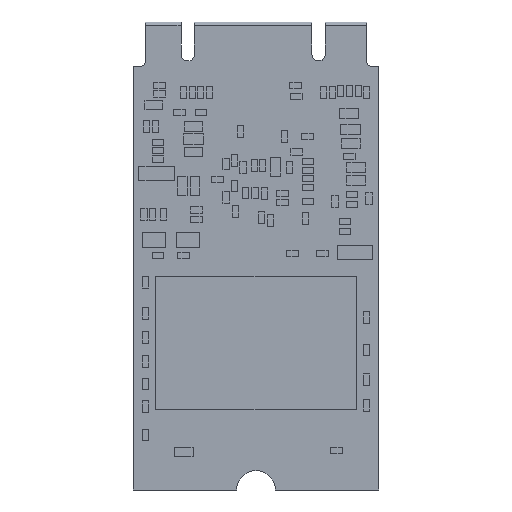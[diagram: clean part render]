
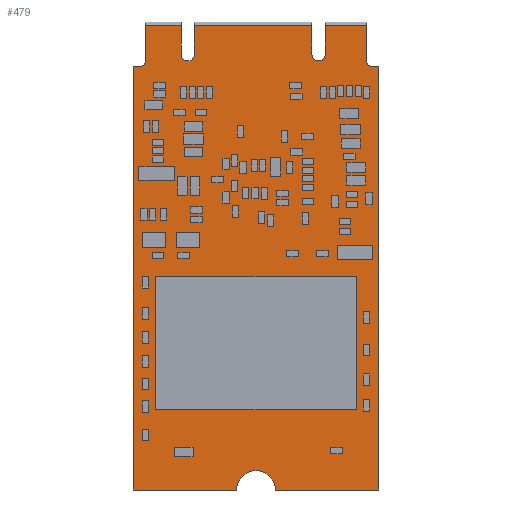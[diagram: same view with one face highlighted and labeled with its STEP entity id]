
A CAD part, front view. The second image highlights one B-rep face of the part: STEP entity #479.
In plain terms, the highlighted planar face has unit normal (0, -1, 0).
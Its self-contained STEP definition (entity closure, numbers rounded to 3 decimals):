
#6=DIRECTION('',(1.,0.,0.));
#7=VECTOR('',#6,3.2);
#8=CARTESIAN_POINT('',(-9.925,0.,-0.3));
#9=LINE('',#8,#7);
#10=DIRECTION('',(0.,0.,-1.));
#11=VECTOR('',#10,2.6);
#12=CARTESIAN_POINT('',(-6.725,0.,-0.3));
#13=LINE('',#12,#11);
#14=CARTESIAN_POINT('',(-6.125,0.,-2.9));
#15=DIRECTION('',(0.,1.,0.));
#16=DIRECTION('',(1.,0.,0.));
#17=AXIS2_PLACEMENT_3D('',#14,#15,#16);
#19=DIRECTION('',(0.,0.,-1.));
#20=VECTOR('',#19,2.6);
#21=CARTESIAN_POINT('',(-5.525,0.,-0.3));
#22=LINE('',#21,#20);
#23=DIRECTION('',(1.,0.,0.));
#24=VECTOR('',#23,10.55);
#25=CARTESIAN_POINT('',(-5.525,0.,-0.3));
#26=LINE('',#25,#24);
#27=DIRECTION('',(0.,0.,-1.));
#28=VECTOR('',#27,2.6);
#29=CARTESIAN_POINT('',(5.025,0.,-0.3));
#30=LINE('',#29,#28);
#31=CARTESIAN_POINT('',(5.625,0.,-2.9));
#32=DIRECTION('',(0.,1.,0.));
#33=DIRECTION('',(1.,0.,0.));
#34=AXIS2_PLACEMENT_3D('',#31,#32,#33);
#36=DIRECTION('',(0.,0.,-1.));
#37=VECTOR('',#36,2.6);
#38=CARTESIAN_POINT('',(6.225,0.,-0.3));
#39=LINE('',#38,#37);
#40=DIRECTION('',(1.,0.,0.));
#41=VECTOR('',#40,3.7);
#42=CARTESIAN_POINT('',(6.225,0.,-0.3));
#43=LINE('',#42,#41);
#44=DIRECTION('',(0.,0.,-1.));
#45=VECTOR('',#44,3.2);
#46=CARTESIAN_POINT('',(9.925,0.,-0.3));
#47=LINE('',#46,#45);
#48=DIRECTION('',(-1.,0.,0.));
#49=VECTOR('',#48,0.575);
#50=CARTESIAN_POINT('',(11.,0.,-4.));
#51=LINE('',#50,#49);
#52=DIRECTION('',(0.,0.,-1.));
#53=VECTOR('',#52,38.);
#54=CARTESIAN_POINT('',(11.,0.,-4.));
#55=LINE('',#54,#53);
#56=DIRECTION('',(-1.,0.,0.));
#57=VECTOR('',#56,9.25);
#58=CARTESIAN_POINT('',(11.,0.,-42.));
#59=LINE('',#58,#57);
#60=CARTESIAN_POINT('',(0.,0.,-42.));
#61=DIRECTION('',(0.,1.,0.));
#62=DIRECTION('',(-1.,0.,0.));
#63=AXIS2_PLACEMENT_3D('',#60,#61,#62);
#65=DIRECTION('',(-1.,0.,0.));
#66=VECTOR('',#65,9.25);
#67=CARTESIAN_POINT('',(-1.75,0.,-42.));
#68=LINE('',#67,#66);
#69=DIRECTION('',(0.,0.,1.));
#70=VECTOR('',#69,38.);
#71=CARTESIAN_POINT('',(-11.,0.,-42.));
#72=LINE('',#71,#70);
#73=DIRECTION('',(1.,0.,0.));
#74=VECTOR('',#73,0.575);
#75=CARTESIAN_POINT('',(-11.,0.,-4.));
#76=LINE('',#75,#74);
#77=DIRECTION('',(0.,0.,-1.));
#78=VECTOR('',#77,3.2);
#79=CARTESIAN_POINT('',(-9.925,0.,-0.3));
#80=LINE('',#79,#78);
#102=CARTESIAN_POINT('',(-10.425,0.,-3.5));
#103=DIRECTION('',(0.,1.,0.));
#104=DIRECTION('',(1.,0.,0.));
#105=AXIS2_PLACEMENT_3D('',#102,#103,#104);
#319=CARTESIAN_POINT('',(10.425,0.,-3.5));
#320=DIRECTION('',(0.,1.,0.));
#321=DIRECTION('',(0.,0.,-1.));
#322=AXIS2_PLACEMENT_3D('',#319,#320,#321);
#328=CARTESIAN_POINT('',(11.,0.,-42.));
#330=VERTEX_POINT('',#328);
#332=CARTESIAN_POINT('',(-11.,0.,-42.));
#334=VERTEX_POINT('',#332);
#336=CARTESIAN_POINT('',(11.,0.,-4.));
#338=VERTEX_POINT('',#336);
#340=CARTESIAN_POINT('',(-11.,0.,-4.));
#342=VERTEX_POINT('',#340);
#344=CARTESIAN_POINT('',(6.225,0.,-2.9));
#345=CARTESIAN_POINT('',(5.025,0.,-2.9));
#346=VERTEX_POINT('',#344);
#347=VERTEX_POINT('',#345);
#353=CARTESIAN_POINT('',(9.925,0.,-3.5));
#355=VERTEX_POINT('',#353);
#357=CARTESIAN_POINT('',(10.425,0.,-4.));
#359=VERTEX_POINT('',#357);
#361=CARTESIAN_POINT('',(-10.425,0.,-4.));
#363=VERTEX_POINT('',#361);
#365=CARTESIAN_POINT('',(-9.925,0.,-3.5));
#367=VERTEX_POINT('',#365);
#368=CARTESIAN_POINT('',(-9.925,0.,-0.3));
#369=CARTESIAN_POINT('',(-6.725,0.,-0.3));
#370=VERTEX_POINT('',#368);
#371=VERTEX_POINT('',#369);
#372=CARTESIAN_POINT('',(-5.525,0.,-0.3));
#373=CARTESIAN_POINT('',(5.025,0.,-0.3));
#374=VERTEX_POINT('',#372);
#375=VERTEX_POINT('',#373);
#400=CARTESIAN_POINT('',(9.925,0.,-0.3));
#402=VERTEX_POINT('',#400);
#408=CARTESIAN_POINT('',(6.225,0.,-0.3));
#410=VERTEX_POINT('',#408);
#416=CARTESIAN_POINT('',(-1.75,0.,-42.));
#417=CARTESIAN_POINT('',(1.75,0.,-42.));
#418=VERTEX_POINT('',#416);
#419=VERTEX_POINT('',#417);
#424=CARTESIAN_POINT('',(-5.525,0.,-2.9));
#425=CARTESIAN_POINT('',(-6.725,0.,-2.9));
#426=VERTEX_POINT('',#424);
#427=VERTEX_POINT('',#425);
#432=CARTESIAN_POINT('',(0.,0.,0.));
#433=DIRECTION('',(0.,1.,0.));
#434=DIRECTION('',(1.,0.,0.));
#435=AXIS2_PLACEMENT_3D('',#432,#433,#434);
#436=PLANE('',#435);
#438=ORIENTED_EDGE('',*,*,#437,.T.);
#440=ORIENTED_EDGE('',*,*,#439,.T.);
#442=ORIENTED_EDGE('',*,*,#441,.F.);
#444=ORIENTED_EDGE('',*,*,#443,.F.);
#446=ORIENTED_EDGE('',*,*,#445,.T.);
#448=ORIENTED_EDGE('',*,*,#447,.T.);
#450=ORIENTED_EDGE('',*,*,#449,.F.);
#452=ORIENTED_EDGE('',*,*,#451,.F.);
#454=ORIENTED_EDGE('',*,*,#453,.T.);
#456=ORIENTED_EDGE('',*,*,#455,.T.);
#458=ORIENTED_EDGE('',*,*,#457,.F.);
#460=ORIENTED_EDGE('',*,*,#459,.F.);
#462=ORIENTED_EDGE('',*,*,#461,.T.);
#464=ORIENTED_EDGE('',*,*,#463,.T.);
#466=ORIENTED_EDGE('',*,*,#465,.F.);
#468=ORIENTED_EDGE('',*,*,#467,.T.);
#470=ORIENTED_EDGE('',*,*,#469,.T.);
#472=ORIENTED_EDGE('',*,*,#471,.T.);
#474=ORIENTED_EDGE('',*,*,#473,.F.);
#476=ORIENTED_EDGE('',*,*,#475,.F.);
#477=EDGE_LOOP('',(#438,#440,#442,#444,#446,#448,#450,#452,#454,#456,#458,#460,
#462,#464,#466,#468,#470,#472,#474,#476));
#478=FACE_OUTER_BOUND('',#477,.F.);
#18=CIRCLE('',#17,0.6);
#35=CIRCLE('',#34,0.6);
#64=CIRCLE('',#63,1.75);
#106=CIRCLE('',#105,0.5);
#323=CIRCLE('',#322,0.5);
#437=EDGE_CURVE('',#370,#371,#9,.T.);
#439=EDGE_CURVE('',#371,#427,#13,.T.);
#441=EDGE_CURVE('',#426,#427,#18,.T.);
#443=EDGE_CURVE('',#374,#426,#22,.T.);
#445=EDGE_CURVE('',#374,#375,#26,.T.);
#447=EDGE_CURVE('',#375,#347,#30,.T.);
#449=EDGE_CURVE('',#346,#347,#35,.T.);
#451=EDGE_CURVE('',#410,#346,#39,.T.);
#453=EDGE_CURVE('',#410,#402,#43,.T.);
#455=EDGE_CURVE('',#402,#355,#47,.T.);
#457=EDGE_CURVE('',#359,#355,#323,.T.);
#459=EDGE_CURVE('',#338,#359,#51,.T.);
#461=EDGE_CURVE('',#338,#330,#55,.T.);
#463=EDGE_CURVE('',#330,#419,#59,.T.);
#465=EDGE_CURVE('',#418,#419,#64,.T.);
#467=EDGE_CURVE('',#418,#334,#68,.T.);
#469=EDGE_CURVE('',#334,#342,#72,.T.);
#471=EDGE_CURVE('',#342,#363,#76,.T.);
#473=EDGE_CURVE('',#367,#363,#106,.T.);
#475=EDGE_CURVE('',#370,#367,#80,.T.);
#479=ADVANCED_FACE('',(#478),#436,.F.);
